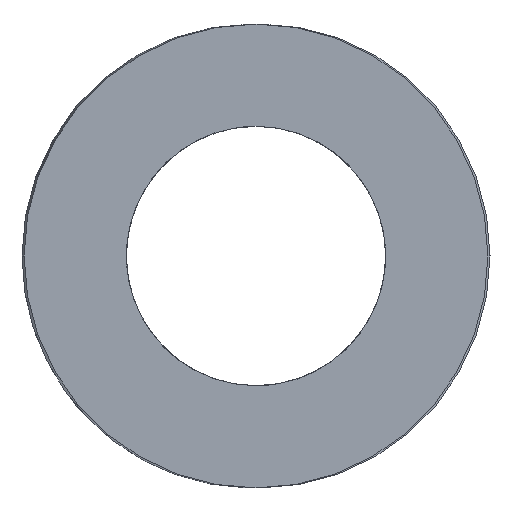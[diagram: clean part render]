
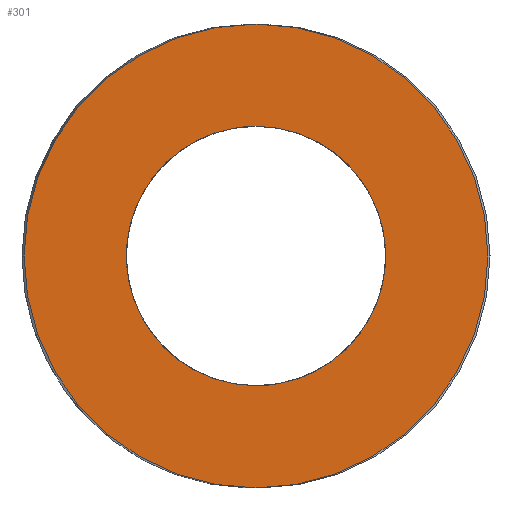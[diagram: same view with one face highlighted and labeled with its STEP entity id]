
A CAD part, left-side view. The second image highlights one B-rep face of the part: STEP entity #301.
In plain terms, the highlighted planar face has unit normal (-1, 0, 0).
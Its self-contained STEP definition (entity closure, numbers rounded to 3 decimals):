
#63=CARTESIAN_POINT('Vertex',(0.,12.25,0.)) ;
#77=CARTESIAN_POINT('Vertex',(0.,-12.25,0.)) ;
#80=CARTESIAN_POINT('Axis2P3D Location',(0.,0.,0.)) ;
#97=CARTESIAN_POINT('Axis2P3D Location',(0.,0.,0.)) ;
#232=CARTESIAN_POINT('Axis2P3D Location',(0.,6.125,0.)) ;
#242=CARTESIAN_POINT('Control Point',(0.,0.,-6.85)) ;
#243=CARTESIAN_POINT('Control Point',(0.,0.641,-6.85)) ;
#244=CARTESIAN_POINT('Control Point',(0.,1.282,-6.775)) ;
#245=CARTESIAN_POINT('Control Point',(0.,1.912,-6.625)) ;
#246=CARTESIAN_POINT('Control Point',(0.,3.124,-6.181)) ;
#247=CARTESIAN_POINT('Control Point',(0.,4.2,-5.468)) ;
#248=CARTESIAN_POINT('Control Point',(0.,4.694,-5.051)) ;
#249=CARTESIAN_POINT('Control Point',(0.,5.576,-4.107)) ;
#250=CARTESIAN_POINT('Control Point',(0.,6.215,-2.986)) ;
#251=CARTESIAN_POINT('Control Point',(0.,6.468,-2.39)) ;
#252=CARTESIAN_POINT('Control Point',(0.,6.829,-1.151)) ;
#253=CARTESIAN_POINT('Control Point',(0.,6.894,0.139)) ;
#254=CARTESIAN_POINT('Control Point',(0.,6.851,0.784)) ;
#255=CARTESIAN_POINT('Control Point',(0.,6.614,2.053)) ;
#256=CARTESIAN_POINT('Control Point',(0.,6.09,3.233)) ;
#257=CARTESIAN_POINT('Control Point',(0.,5.76,3.79)) ;
#258=CARTESIAN_POINT('Control Point',(0.,4.977,4.816)) ;
#259=CARTESIAN_POINT('Control Point',(0.,3.977,5.633)) ;
#260=CARTESIAN_POINT('Control Point',(0.,3.432,5.981)) ;
#261=CARTESIAN_POINT('Control Point',(0.,2.436,6.462)) ;
#262=CARTESIAN_POINT('Control Point',(0.,1.368,6.735)) ;
#263=CARTESIAN_POINT('Control Point',(0.,0.915,6.812)) ;
#264=CARTESIAN_POINT('Control Point',(0.,0.457,6.85)) ;
#265=CARTESIAN_POINT('Control Point',(0.,0.,6.85)) ;
#266=CARTESIAN_POINT('Vertex',(0.,0.,-6.85)) ;
#268=CARTESIAN_POINT('Vertex',(0.,0.,6.85)) ;
#272=CARTESIAN_POINT('Control Point',(0.,0.,6.85)) ;
#273=CARTESIAN_POINT('Control Point',(0.,-0.641,6.85)) ;
#274=CARTESIAN_POINT('Control Point',(0.,-1.282,6.775)) ;
#275=CARTESIAN_POINT('Control Point',(0.,-1.912,6.625)) ;
#276=CARTESIAN_POINT('Control Point',(0.,-3.124,6.181)) ;
#277=CARTESIAN_POINT('Control Point',(0.,-4.2,5.468)) ;
#278=CARTESIAN_POINT('Control Point',(0.,-4.694,5.051)) ;
#279=CARTESIAN_POINT('Control Point',(0.,-5.576,4.107)) ;
#280=CARTESIAN_POINT('Control Point',(0.,-6.215,2.986)) ;
#281=CARTESIAN_POINT('Control Point',(0.,-6.468,2.39)) ;
#282=CARTESIAN_POINT('Control Point',(0.,-6.829,1.151)) ;
#283=CARTESIAN_POINT('Control Point',(0.,-6.894,-0.139)) ;
#284=CARTESIAN_POINT('Control Point',(0.,-6.851,-0.784)) ;
#285=CARTESIAN_POINT('Control Point',(0.,-6.614,-2.053)) ;
#286=CARTESIAN_POINT('Control Point',(0.,-6.09,-3.233)) ;
#287=CARTESIAN_POINT('Control Point',(0.,-5.76,-3.79)) ;
#288=CARTESIAN_POINT('Control Point',(0.,-4.977,-4.816)) ;
#289=CARTESIAN_POINT('Control Point',(0.,-3.977,-5.633)) ;
#290=CARTESIAN_POINT('Control Point',(0.,-3.432,-5.981)) ;
#291=CARTESIAN_POINT('Control Point',(0.,-2.436,-6.462)) ;
#292=CARTESIAN_POINT('Control Point',(0.,-1.368,-6.735)) ;
#293=CARTESIAN_POINT('Control Point',(0.,-0.915,-6.812)) ;
#294=CARTESIAN_POINT('Control Point',(0.,-0.457,-6.85)) ;
#295=CARTESIAN_POINT('Control Point',(0.,0.,-6.85)) ;
#81=DIRECTION('Axis2P3D Direction',(1.,-0.,0.)) ;
#98=DIRECTION('Axis2P3D Direction',(1.,-0.,0.)) ;
#233=DIRECTION('Axis2P3D Direction',(-1.,0.,0.)) ;
#234=DIRECTION('Axis2P3D XDirection',(0.,1.,0.)) ;
#82=AXIS2_PLACEMENT_3D('Circle Axis2P3D',#80,#81,$) ;
#99=AXIS2_PLACEMENT_3D('Circle Axis2P3D',#97,#98,$) ;
#235=AXIS2_PLACEMENT_3D('Plane Axis2P3D',#232,#233,#234) ;
#238=ORIENTED_EDGE('',*,*,#84,.T.) ;
#239=ORIENTED_EDGE('',*,*,#101,.T.) ;
#298=ORIENTED_EDGE('',*,*,#270,.T.) ;
#299=ORIENTED_EDGE('',*,*,#296,.T.) ;
#300=FACE_BOUND('',#297,.T.) ;
#301=ADVANCED_FACE('392-B25-064',(#240,#300),#236,.T.) ;
#241=B_SPLINE_CURVE_WITH_KNOTS('',5,(#242,#243,#244,#245,#246,#247,#248,#249,#250,#251,#252,#253,#254,#255,#256,#257,#258,#259,#260,#261,#262,#263,#264,#265),.UNSPECIFIED.,.F.,.U.,(6,3,3,3,3,3,3,6),(0.,4.533,9.066,13.6,18.133,22.666,27.199,30.433),.UNSPECIFIED.) ;
#271=B_SPLINE_CURVE_WITH_KNOTS('',5,(#272,#273,#274,#275,#276,#277,#278,#279,#280,#281,#282,#283,#284,#285,#286,#287,#288,#289,#290,#291,#292,#293,#294,#295),.UNSPECIFIED.,.F.,.U.,(6,3,3,3,3,3,3,6),(0.,4.533,9.066,13.6,18.133,22.666,27.199,30.433),.UNSPECIFIED.) ;
#83=CIRCLE('generated circle',#82,12.25) ;
#100=CIRCLE('generated circle',#99,12.25) ;
#84=EDGE_CURVE('',#64,#78,#83,.F.) ;
#101=EDGE_CURVE('',#78,#64,#100,.F.) ;
#270=EDGE_CURVE('',#267,#269,#241,.T.) ;
#296=EDGE_CURVE('',#269,#267,#271,.T.) ;
#237=EDGE_LOOP('',(#238,#239)) ;
#297=EDGE_LOOP('',(#298,#299)) ;
#240=FACE_OUTER_BOUND('',#237,.T.) ;
#236=PLANE('Plane',#235) ;
#64=VERTEX_POINT('',#63) ;
#78=VERTEX_POINT('',#77) ;
#267=VERTEX_POINT('',#266) ;
#269=VERTEX_POINT('',#268) ;
